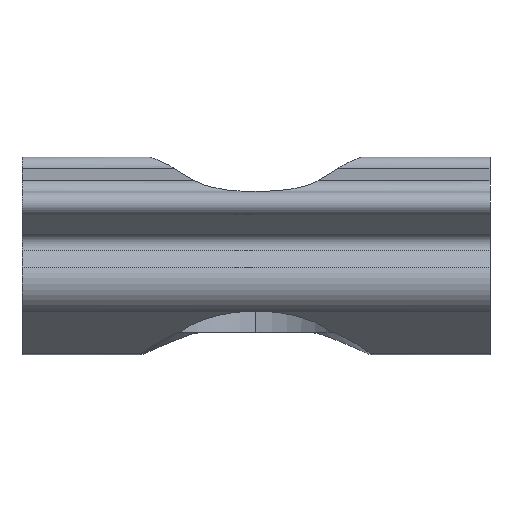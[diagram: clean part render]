
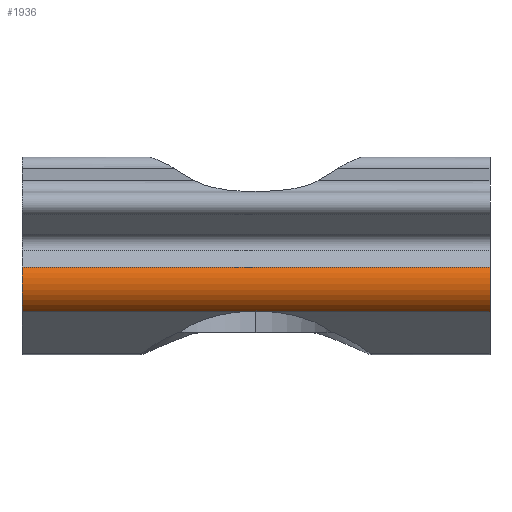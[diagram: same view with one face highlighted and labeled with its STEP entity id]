
A CAD part, top view. The second image highlights one B-rep face of the part: STEP entity #1936.
In plain terms, the highlighted cylindrical face has radius 1.5 mm (diameter 3 mm), a partial arc.
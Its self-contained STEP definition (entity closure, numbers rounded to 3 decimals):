
#325=CARTESIAN_POINT('',(14.302,11.684,13.711));
#326=VERTEX_POINT('',#325);
#334=CARTESIAN_POINT('',(14.302,9.778,13.033));
#335=VERTEX_POINT('',#334);
#336=CARTESIAN_POINT('',(14.302,11.102,12.329));
#337=DIRECTION('',(-1.,0.0,0.0));
#338=DIRECTION('',(0.0,0.388,0.922));
#339=AXIS2_PLACEMENT_3D('',#336,#337,#338);
#340=CIRCLE('',#339,1.5);
#341=EDGE_CURVE('',#335,#326,#340,.T.);
#1124=CARTESIAN_POINT('',(-5.698,11.684,13.711));
#1125=VERTEX_POINT('',#1124);
#1133=CARTESIAN_POINT('',(14.302,11.684,13.711));
#1134=DIRECTION('',(-1.0,0.0,0.0));
#1135=VECTOR('',#1134,20.0);
#1136=LINE('',#1133,#1135);
#1137=EDGE_CURVE('',#326,#1125,#1136,.T.);
#1619=CARTESIAN_POINT('',(4.302,9.801,13.075));
#1620=VERTEX_POINT('',#1619);
#1627=CARTESIAN_POINT('',(3.722,9.778,13.033));
#1628=VERTEX_POINT('',#1627);
#1629=CARTESIAN_POINT('',(4.302,9.801,13.075));
#1630=CARTESIAN_POINT('',(4.108,9.801,13.075));
#1631=CARTESIAN_POINT('',(3.914,9.793,13.061));
#1632=CARTESIAN_POINT('',(3.722,9.778,13.033));
#1633=QUASI_UNIFORM_CURVE('',3,(#1629,#1630,#1631,#1632),.UNSPECIFIED.,.F.,.U.);
#1634=EDGE_CURVE('',#1620,#1628,#1633,.T.);
#1679=CARTESIAN_POINT('',(-5.698,9.778,13.033));
#1680=VERTEX_POINT('',#1679);
#1681=CARTESIAN_POINT('',(3.722,9.778,13.033));
#1682=DIRECTION('',(-1.0,0.,0.));
#1683=VECTOR('',#1682,9.42);
#1684=LINE('',#1681,#1683);
#1685=EDGE_CURVE('',#1628,#1680,#1684,.T.);
#1702=CARTESIAN_POINT('',(4.881,9.778,13.033));
#1703=VERTEX_POINT('',#1702);
#1704=CARTESIAN_POINT('',(14.302,9.778,13.033));
#1705=DIRECTION('',(-1.0,0.,0.));
#1706=VECTOR('',#1705,9.42);
#1707=LINE('',#1704,#1706);
#1708=EDGE_CURVE('',#335,#1703,#1707,.T.);
#1884=CARTESIAN_POINT('',(-5.698,11.102,12.329));
#1885=DIRECTION('',(-1.0,0.0,0.0));
#1886=DIRECTION('',(0.0,0.388,0.922));
#1887=AXIS2_PLACEMENT_3D('',#1884,#1885,#1886);
#1888=CIRCLE('',#1887,1.5);
#1889=EDGE_CURVE('',#1680,#1125,#1888,.T.);
#1916=CARTESIAN_POINT('',(14.302,11.102,12.329));
#1917=DIRECTION('',(1.0,0.0,0.0));
#1918=DIRECTION('',(0.0,0.942,0.335));
#1919=AXIS2_PLACEMENT_3D('',#1916,#1917,#1918);
#1920=CYLINDRICAL_SURFACE('',#1919,1.5);
#1921=ORIENTED_EDGE('',*,*,#1889,.F.);
#1922=ORIENTED_EDGE('',*,*,#1685,.F.);
#1923=ORIENTED_EDGE('',*,*,#1634,.F.);
#1924=CARTESIAN_POINT('',(4.881,9.778,13.033));
#1925=CARTESIAN_POINT('',(4.69,9.793,13.061));
#1926=CARTESIAN_POINT('',(4.496,9.801,13.075));
#1927=CARTESIAN_POINT('',(4.302,9.801,13.075));
#1928=QUASI_UNIFORM_CURVE('',3,(#1924,#1925,#1926,#1927),.UNSPECIFIED.,.F.,.U.);
#1929=EDGE_CURVE('',#1703,#1620,#1928,.T.);
#1930=ORIENTED_EDGE('',*,*,#1929,.F.);
#1931=ORIENTED_EDGE('',*,*,#1708,.F.);
#1932=ORIENTED_EDGE('',*,*,#341,.T.);
#1933=ORIENTED_EDGE('',*,*,#1137,.T.);
#1934=EDGE_LOOP('',(#1921,#1922,#1923,#1930,#1931,#1932,#1933));
#1935=FACE_OUTER_BOUND('',#1934,.T.);
#1936=ADVANCED_FACE('',(#1935),#1920,.T.);
